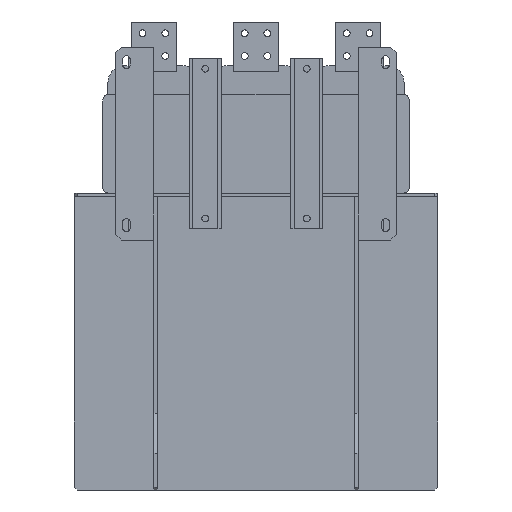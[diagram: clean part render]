
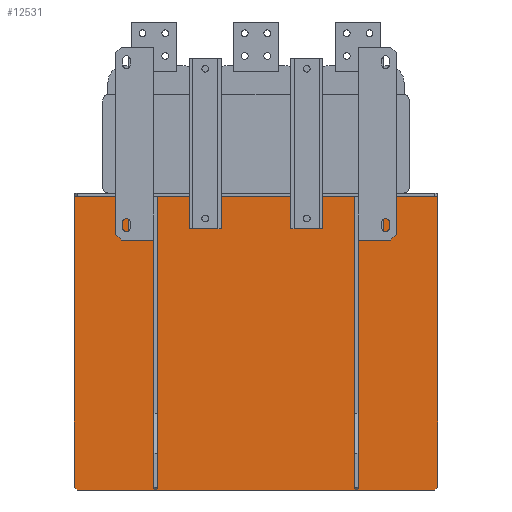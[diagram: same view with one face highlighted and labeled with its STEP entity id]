
A CAD part, front view. The second image highlights one B-rep face of the part: STEP entity #12531.
In plain terms, the highlighted planar face has unit normal (0, -1, 0).
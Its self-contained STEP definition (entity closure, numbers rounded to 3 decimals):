
#554=PLANE('',#13594);
#1208=FACE_OUTER_BOUND('',#2094,.T.);
#2094=EDGE_LOOP('',(#9895,#9896,#9897,#9898,#9899,#9900));
#3152=LINE('',#19435,#4501);
#3162=LINE('',#19455,#4511);
#3165=LINE('',#19461,#4514);
#3170=LINE('',#19470,#4519);
#3172=LINE('',#19474,#4521);
#3173=LINE('',#19476,#4522);
#4501=VECTOR('',#15683,10.);
#4511=VECTOR('',#15699,10.);
#4514=VECTOR('',#15704,10.);
#4519=VECTOR('',#15711,10.);
#4521=VECTOR('',#15717,10.);
#4522=VECTOR('',#15720,10.);
#6157=VERTEX_POINT('',#19432);
#6158=VERTEX_POINT('',#19434);
#6164=VERTEX_POINT('',#19452);
#6165=VERTEX_POINT('',#19454);
#6167=VERTEX_POINT('',#19460);
#6170=VERTEX_POINT('',#19468);
#7496=EDGE_CURVE('',#6157,#6158,#3152,.T.);
#7506=EDGE_CURVE('',#6164,#6165,#3162,.T.);
#7509=EDGE_CURVE('',#6167,#6157,#3165,.T.);
#7514=EDGE_CURVE('',#6170,#6167,#3170,.T.);
#7516=EDGE_CURVE('',#6165,#6170,#3172,.T.);
#7517=EDGE_CURVE('',#6158,#6164,#3173,.T.);
#9895=ORIENTED_EDGE('',*,*,#7509,.F.);
#9896=ORIENTED_EDGE('',*,*,#7514,.F.);
#9897=ORIENTED_EDGE('',*,*,#7516,.F.);
#9898=ORIENTED_EDGE('',*,*,#7506,.F.);
#9899=ORIENTED_EDGE('',*,*,#7517,.F.);
#9900=ORIENTED_EDGE('',*,*,#7496,.F.);
#12531=ADVANCED_FACE('',(#1208),#554,.T.);
#13594=AXIS2_PLACEMENT_3D('',#19475,#15718,#15719);
#15683=DIRECTION('',(0.,0.,1.));
#15699=DIRECTION('',(0.,0.,-1.));
#15704=DIRECTION('',(-0.707,0.,0.707));
#15711=DIRECTION('',(-1.,0.,0.));
#15717=DIRECTION('',(-0.707,0.,-0.707));
#15718=DIRECTION('center_axis',(0.,-1.,0.));
#15719=DIRECTION('ref_axis',(0.,0.,-1.));
#15720=DIRECTION('',(1.,0.,0.));
#19432=CARTESIAN_POINT('',(-320.,130.,-605.5));
#19434=CARTESIAN_POINT('',(-320.,130.,-93.));
#19435=CARTESIAN_POINT('',(-320.,130.,-93.));
#19452=CARTESIAN_POINT('',(320.,130.,-93.));
#19454=CARTESIAN_POINT('',(320.,130.,-605.5));
#19455=CARTESIAN_POINT('',(320.,130.,-93.));
#19460=CARTESIAN_POINT('',(-315.,130.,-610.5));
#19461=CARTESIAN_POINT('',(-366.875,130.,-558.625));
#19468=CARTESIAN_POINT('',(315.,130.,-610.5));
#19470=CARTESIAN_POINT('',(0.,130.,-610.5));
#19474=CARTESIAN_POINT('',(366.875,130.,-558.625));
#19475=CARTESIAN_POINT('Origin',(0.,130.,-93.));
#19476=CARTESIAN_POINT('',(0.,130.,-93.));
